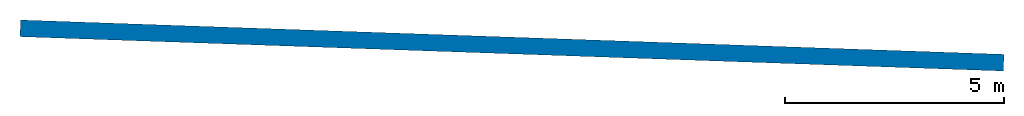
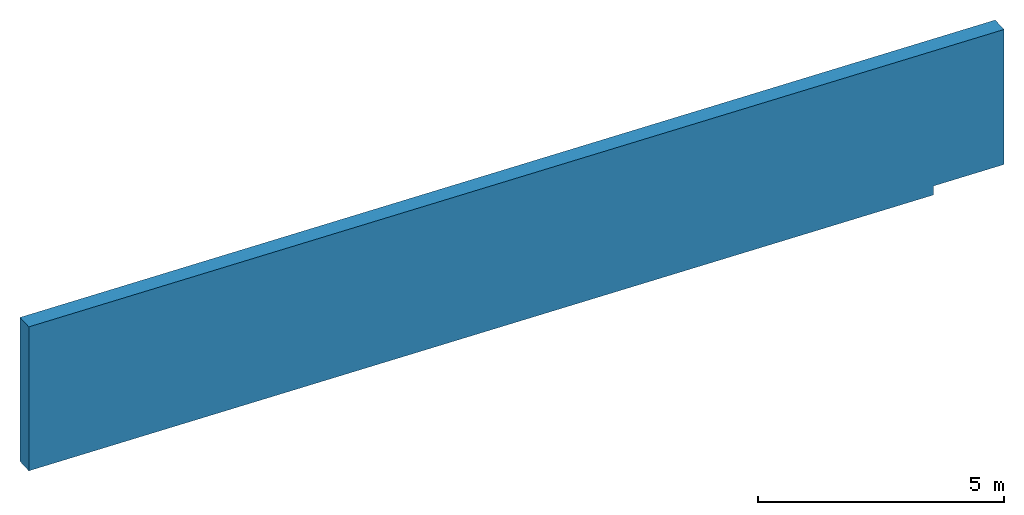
# One storey: 1 wall, 1 opening.
"""IFC2X3 building model written with IfcOpenShell, lengths in feet."""

from ifc_helpers import new_model, entity, si_unit, converted_unit, derived_unit, direction, frame, frame_2d, origin, place, context, subcontext, project, spatial, polyline, rectangle, outline, extrude, clip, halfspace, material, layer, layer_set, layer_usage, type_object, element, save


model = new_model("IFC2X3")

# Units and contexts
model_context = context("Model", 3, precision=0.0001, world=origin(), true_north=direction((0.999390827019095, 0.0348994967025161)))
body_context = subcontext(model_context, "Body", "Model", "MODEL_VIEW")
ifc_project = project(units=[converted_unit("LENGTHUNIT", "FOOT", entity("IfcRatioMeasure", 0.3048), si_unit("LENGTHUNIT", "METRE"), dimensions=[1, 0, 0, 0, 0, 0, 0]), converted_unit("AREAUNIT", "SQUARE FOOT", entity("IfcRatioMeasure", 0.09290304), si_unit("AREAUNIT", "SQUARE_METRE"), dimensions=[2, 0, 0, 0, 0, 0, 0]), converted_unit("VOLUMEUNIT", "CUBIC FOOT", entity("IfcRatioMeasure", 0.028316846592), si_unit("VOLUMEUNIT", "CUBIC_METRE"), dimensions=[3, 0, 0, 0, 0, 0, 0]), converted_unit("PLANEANGLEUNIT", "DEGREE", entity("IfcRatioMeasure", 0.0174532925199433), si_unit("PLANEANGLEUNIT", "RADIAN"), dimensions=[0, 0, 0, 0, 0, 0, 0]), si_unit("MASSUNIT", "GRAM", prefix="KILO"), si_unit("TIMEUNIT", "SECOND"), si_unit("FREQUENCYUNIT", "HERTZ"), si_unit("THERMODYNAMICTEMPERATUREUNIT", "DEGREE_CELSIUS"), derived_unit("THERMALTRANSMITTANCEUNIT", [(si_unit("MASSUNIT", "GRAM", prefix="KILO"), 1), (si_unit("THERMODYNAMICTEMPERATUREUNIT", "KELVIN"), -1), (si_unit("TIMEUNIT", "SECOND"), -3)]), derived_unit("VOLUMETRICFLOWRATEUNIT", [(si_unit("LENGTHUNIT", "METRE"), 3), (si_unit("TIMEUNIT", "SECOND"), -1)]), si_unit("ELECTRICCURRENTUNIT", "AMPERE"), si_unit("ELECTRICVOLTAGEUNIT", "VOLT"), si_unit("POWERUNIT", "WATT"), si_unit("FORCEUNIT", "NEWTON"), si_unit("ILLUMINANCEUNIT", "LUX"), si_unit("LUMINOUSFLUXUNIT", "LUMEN"), si_unit("LUMINOUSINTENSITYUNIT", "CANDELA"), derived_unit("USERDEFINED", [(si_unit("MASSUNIT", "GRAM", prefix="KILO"), -1), (si_unit("LENGTHUNIT", "METRE"), -2), (si_unit("TIMEUNIT", "SECOND"), 3), (si_unit("LUMINOUSFLUXUNIT", "LUMEN"), 1)]), derived_unit("LINEARVELOCITYUNIT", [(si_unit("LENGTHUNIT", "METRE"), 1), (si_unit("TIMEUNIT", "SECOND"), -1)]), si_unit("PRESSUREUNIT", "PASCAL"), derived_unit("USERDEFINED", [(si_unit("LENGTHUNIT", "METRE"), -2), (si_unit("MASSUNIT", "GRAM", prefix="KILO"), 1), (si_unit("TIMEUNIT", "SECOND"), -2)])], contexts=[model_context])

# Site, building, storey
site_placement = place(None, frame((892.518771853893, 322.38689265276, 0.00393700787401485), z_axis=(0.0, 0.0, 1.0), x_axis=(0.0348994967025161, 0.999390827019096, 0.0)))
site = spatial("IfcSite", under=ifc_project, at=site_placement, Name="Default", CompositionType="ELEMENT")
building_placement = place(site_placement, origin())
building = spatial("IfcBuilding", under=site, at=building_placement, CompositionType="ELEMENT")
storey_placement = place(building_placement, frame((0.0, 0.0, 543.5)))
storey = spatial("IfcBuildingStorey", under=building, at=storey_placement, Name="Ground Floor", CompositionType="ELEMENT", Elevation=543.5)

# Wall, opening
ifc_material = material(Name="Concrete - Cast-in-Place Concrete")
ifc_layer = layer(ifc_material, 1.25)
ifc_layer_set = layer_set([ifc_layer], Name="Basic Wall:Exterior - Below Grade Conc 15\"")
ifc_layer_usage = layer_usage(ifc_layer_set, "AXIS2", "NEGATIVE", 0.625)
wall_type = type_object("IfcWallType", Name="Basic Wall:Exterior - Below Grade Conc 15\"", PredefinedType="STANDARD", material=ifc_layer_set)
wall_placement = place(storey_placement, frame((223.802293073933, 236.430620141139, -1.5), z_axis=(0.0, 0.0, 1.0), x_axis=(0.0, 1.0, 0.0)))
wall = element("IfcWallStandardCase", 1, at=wall_placement, inside=storey, type_object=wall_type, material=ifc_layer_usage, Name="Basic Wall:Exterior - Below Grade Conc 15\"", ObjectType="Basic Wall:Exterior - Below Grade Conc 15\"", context=body_context, shape_type="Clipping", body=[
    clip(extrude(rectangle(XDim=73.6666666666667, YDim=1.25, at=frame_2d((36.8333333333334, -4.44089209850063e-16), x_axis=(-1.0, 0.0))), origin(), (0.0, 0.0, 1.0), 11.7236329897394), halfspace(frame((5.33333333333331, 0.0, 0.0), z_axis=(-0.122451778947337, 0.0, -0.992474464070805), x_axis=(0.0, -1.0, 0.0)), False)),
])
opening_placement = place(wall_placement, origin())
element("IfcOpeningElement", 2, at=opening_placement, cuts=wall, Name="Basic Wall:Exterior - Below Grade Conc 15\"", ObjectType="Opening", context=body_context, shape_type="SweptSolid", body=[
    extrude(outline(polyline([(-0.486666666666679, -1.97222222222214), (0.243333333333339, -1.97222222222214), (0.243333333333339, 3.9444444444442), (-0.486666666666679, -1.97222222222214)])), frame((3.36111111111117, 0.624999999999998, 0.486666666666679), z_axis=(0.0, -1.0, 0.0), x_axis=(0.0, 0.0, 1.0)), (0.0, 0.0, 1.0), 1.25),
])

save(model, "model.ifc")
